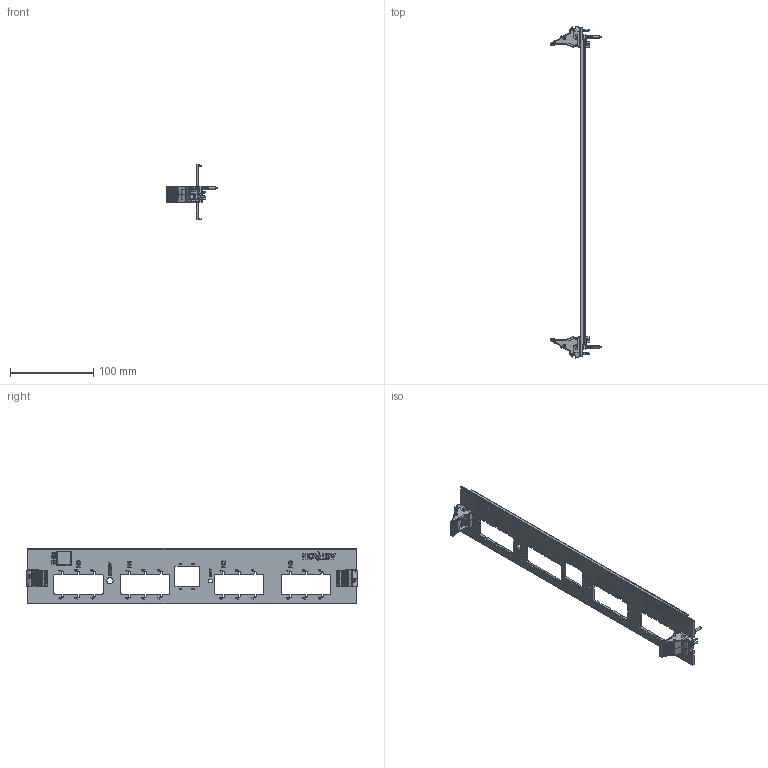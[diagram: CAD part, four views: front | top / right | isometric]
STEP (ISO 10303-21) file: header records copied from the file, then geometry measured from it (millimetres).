
FILE_DESCRIPTION(/* description */ (''),/* implementation_level */ '2;1');
FILE_NAME(/* name */ '015499_01-Uniboard 2_assy front panel.stp',/* time_stamp */ '2023-05-30T09:08:36+02:00',/* author */ (''),/* organization */ (''),/* preprocessor_version */ 'ST-DEVELOPER v18.1',/* originating_system */ 'SIEMENS PLM Software NX 1973',/* authorisation */ '');
FILE_SCHEMA (('AUTOMOTIVE_DESIGN { 1 0 10303 214 3 1 1 1 }'));
Products named in the file (5): 015239_01-Front Panel EMC_Stainless Steel_9U; 014981_01-Uniboard 2_front panel; 014976_01-Extractor top; 014977_01-Extractor bottom; 015499_01-Uniboard 2_assy front panel
Assembly tree (4 placements, depth 2):
  015499_01-Uniboard 2_assy front panel
    014977_01-Extractor bottom
    014976_01-Extractor top
    014981_01-Uniboard 2_front panel
    015239_01-Front Panel EMC_Stainless Steel_9U
Bounding box: 60.45 x 399.3 x 66.4 mm (x, y, z)
Volume: 65609 mm3; surface area: 68966.3 mm2
Topology: 39 solids, 39 shells, 4374 faces, 11236 edges, 6912 vertices
Faces by surface type: cylinder 1837, plane 1498, bspline 880, cone 148, extrusion 11
Full cylindrical faces by diameter (mm): 2.6 x2, 4.5 x1, 7.5 x1
Entity records: 173933 total; most frequent: CARTESIAN_POINT 57206, ORIENTED_EDGE 21990, DIRECTION 18953, EDGE_CURVE 10995, VERTEX_POINT 6910, AXIS2_PLACEMENT_3D 6856, VECTOR 5241, LINE 5230
